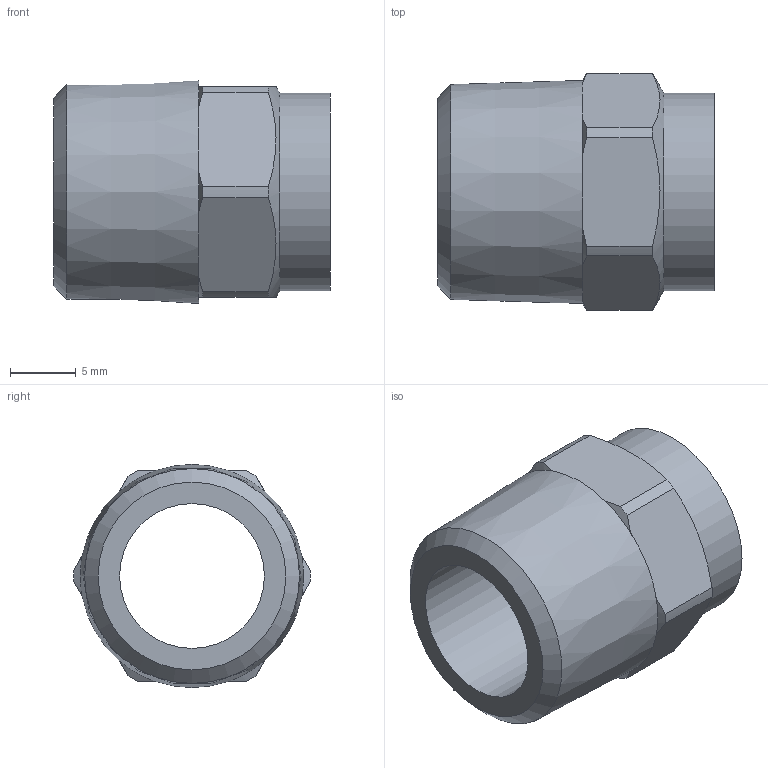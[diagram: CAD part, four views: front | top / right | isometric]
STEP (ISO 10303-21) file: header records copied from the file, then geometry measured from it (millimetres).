
FILE_DESCRIPTION((''),'2;1');
FILE_NAME('\\Lg50001\Groups\SANHA Legnica\Engineering\Public\RYSUNKI\SANHA POLSKA\4243G\step\14243_12-38(2).stp','2008-08-20T10:13:41',('pajchrowski'),(''),'Autodesk Inventor 2008','Autodesk Inventor 2008','');
FILE_SCHEMA(('AUTOMOTIVE_DESIGN { 1 0 10303 214 1 1 1 1 }'));
Length unit declared in the file: millimetre
Products named in the file (1): 14243_12-38(3)
Bounding box: 21 x 18 x 16.95 mm (x, y, z)
Volume: 2226.1 mm3; surface area: 2046.4 mm2
Topology: 1 solids, 1 shells, 33 faces, 76 edges, 46 vertices
Faces by surface type: plane 15, cone 9, cylinder 9
Full cylindrical faces by diameter (mm): 11 x1, 12 x1, 15 x1
Entity records: 894 total; most frequent: CARTESIAN_POINT 182, DIRECTION 150, ORIENTED_EDGE 136, EDGE_CURVE 68, AXIS2_PLACEMENT_3D 66, VERTEX_POINT 44, EDGE_LOOP 42, FACE_OUTER_BOUND 33
